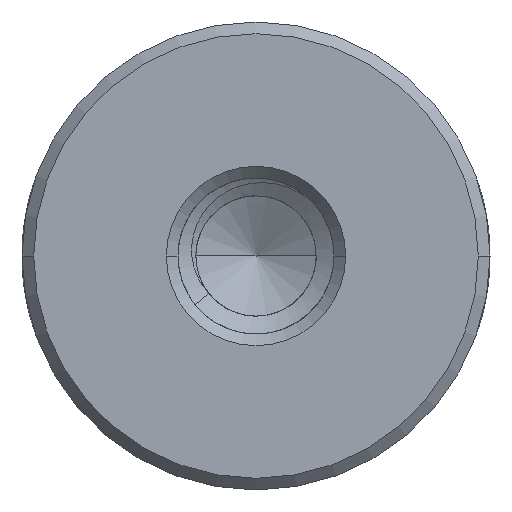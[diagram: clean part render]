
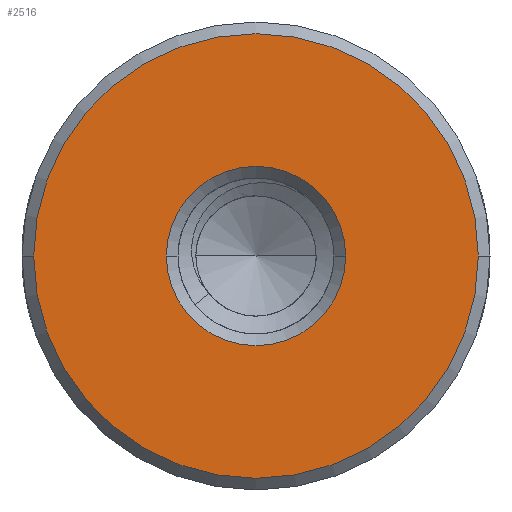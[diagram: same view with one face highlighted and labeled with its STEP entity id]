
A CAD part, front view. The second image highlights one B-rep face of the part: STEP entity #2516.
In plain terms, the highlighted planar face has unit normal (0, -1, 0).
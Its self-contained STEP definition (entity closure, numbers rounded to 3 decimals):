
#1=CARTESIAN_POINT('',(0.,-40.,0.));
#2=DIRECTION('',(0.,-1.,0.));
#3=DIRECTION('',(-1.,0.,0.));
#4=AXIS2_PLACEMENT_3D('',#1,#2,#3);
#6=CARTESIAN_POINT('',(0.,-40.,0.));
#7=DIRECTION('',(0.,-1.,0.));
#8=DIRECTION('',(1.,0.,0.));
#9=AXIS2_PLACEMENT_3D('',#6,#7,#8);
#11=CARTESIAN_POINT('',(0.,-40.,0.));
#12=DIRECTION('',(0.,1.,0.));
#13=DIRECTION('',(-1.,0.,0.));
#14=AXIS2_PLACEMENT_3D('',#11,#12,#13);
#16=CARTESIAN_POINT('',(0.,-40.,0.));
#17=DIRECTION('',(0.,1.,0.));
#18=DIRECTION('',(1.,0.,0.));
#19=AXIS2_PLACEMENT_3D('',#16,#17,#18);
#2343=CARTESIAN_POINT('',(-5.7,-40.,0.));
#2344=CARTESIAN_POINT('',(5.7,-40.,0.));
#2345=VERTEX_POINT('',#2343);
#2346=VERTEX_POINT('',#2344);
#2491=CARTESIAN_POINT('',(-2.3,-40.,0.));
#2492=CARTESIAN_POINT('',(2.3,-40.,0.));
#2493=VERTEX_POINT('',#2491);
#2494=VERTEX_POINT('',#2492);
#2499=CARTESIAN_POINT('',(0.,-40.,0.));
#2500=DIRECTION('',(0.,1.,0.));
#2501=DIRECTION('',(1.,0.,0.));
#2502=AXIS2_PLACEMENT_3D('',#2499,#2500,#2501);
#2503=PLANE('',#2502);
#2505=ORIENTED_EDGE('',*,*,#2504,.F.);
#2507=ORIENTED_EDGE('',*,*,#2506,.F.);
#2508=EDGE_LOOP('',(#2505,#2507));
#2509=FACE_OUTER_BOUND('',#2508,.F.);
#2511=ORIENTED_EDGE('',*,*,#2510,.F.);
#2513=ORIENTED_EDGE('',*,*,#2512,.F.);
#2514=EDGE_LOOP('',(#2511,#2513));
#2515=FACE_BOUND('',#2514,.F.);
#2516=ADVANCED_FACE('',(#2509,#2515),#2503,.F.);
#5=CIRCLE('',#4,5.7);
#10=CIRCLE('',#9,5.7);
#15=CIRCLE('',#14,2.3);
#20=CIRCLE('',#19,2.3);
#2504=EDGE_CURVE('',#2345,#2346,#5,.T.);
#2506=EDGE_CURVE('',#2346,#2345,#10,.T.);
#2510=EDGE_CURVE('',#2493,#2494,#15,.T.);
#2512=EDGE_CURVE('',#2494,#2493,#20,.T.);
